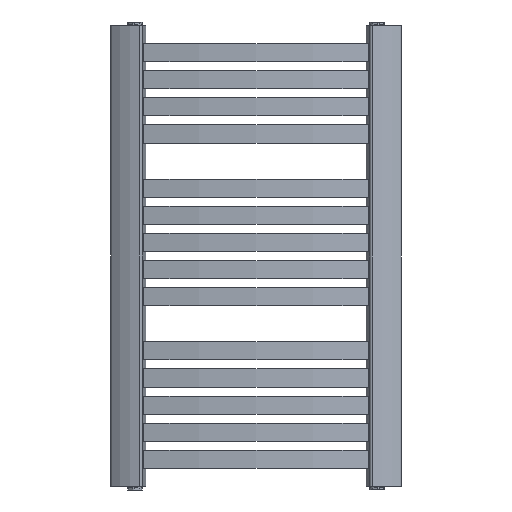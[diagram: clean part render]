
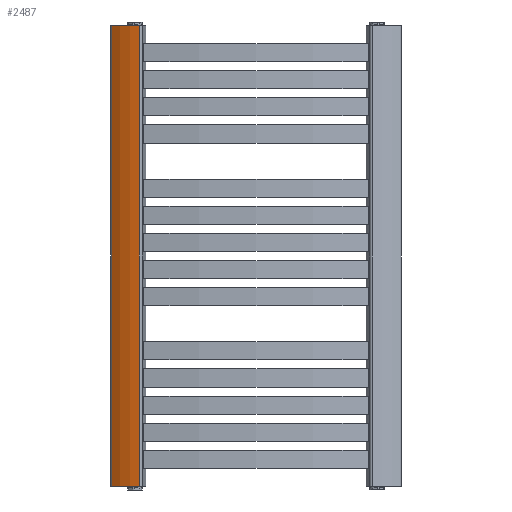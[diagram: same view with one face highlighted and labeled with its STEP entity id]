
A CAD part, left-side view. The second image highlights one B-rep face of the part: STEP entity #2487.
In plain terms, the highlighted cylindrical face has radius 101.419 mm (diameter 202.839 mm), a partial arc.
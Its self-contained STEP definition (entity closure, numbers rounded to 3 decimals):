
#203=CIRCLE('',#2687,101.419);
#204=CIRCLE('',#2688,101.419);
#250=CYLINDRICAL_SURFACE('',#2686,101.419);
#352=FACE_OUTER_BOUND('',#492,.T.);
#492=EDGE_LOOP('',(#2075,#2076,#2077,#2078));
#775=LINE('',#3987,#1043);
#781=LINE('',#4014,#1049);
#1043=VECTOR('',#3225,10.);
#1049=VECTOR('',#3257,10.);
#1249=VERTEX_POINT('',#3980);
#1252=VERTEX_POINT('',#3985);
#1259=VERTEX_POINT('',#4010);
#1260=VERTEX_POINT('',#4012);
#1552=EDGE_CURVE('',#1249,#1252,#775,.T.);
#1564=EDGE_CURVE('',#1259,#1249,#203,.T.);
#1565=EDGE_CURVE('',#1260,#1252,#204,.T.);
#1566=EDGE_CURVE('',#1259,#1260,#781,.T.);
#2075=ORIENTED_EDGE('',*,*,#1564,.T.);
#2076=ORIENTED_EDGE('',*,*,#1552,.T.);
#2077=ORIENTED_EDGE('',*,*,#1565,.F.);
#2078=ORIENTED_EDGE('',*,*,#1566,.F.);
#2487=ADVANCED_FACE('',(#352),#250,.T.);
#2686=AXIS2_PLACEMENT_3D('',#4009,#3251,#3252);
#2687=AXIS2_PLACEMENT_3D('',#4011,#3253,#3254);
#2688=AXIS2_PLACEMENT_3D('',#4013,#3255,#3256);
#3225=DIRECTION('',(0.,0.,1.));
#3251=DIRECTION('center_axis',(0.,0.,1.));
#3252=DIRECTION('ref_axis',(1.,-0.015,0.));
#3253=DIRECTION('center_axis',(0.,0.,1.));
#3254=DIRECTION('ref_axis',(1.,-0.015,0.));
#3255=DIRECTION('center_axis',(0.,0.,1.));
#3256=DIRECTION('ref_axis',(1.,-0.015,0.));
#3257=DIRECTION('',(0.,0.,1.));
#3980=CARTESIAN_POINT('',(5.308,22.798,0.));
#3985=CARTESIAN_POINT('',(5.308,22.798,765.));
#3987=CARTESIAN_POINT('',(5.308,22.798,0.));
#4009=CARTESIAN_POINT('Origin',(-84.408,-24.499,0.));
#4010=CARTESIAN_POINT('',(17.,-26.062,0.));
#4011=CARTESIAN_POINT('Origin',(-84.408,-24.499,0.));
#4012=CARTESIAN_POINT('',(17.,-26.062,765.));
#4013=CARTESIAN_POINT('Origin',(-84.408,-24.499,765.));
#4014=CARTESIAN_POINT('',(17.,-26.062,0.));
